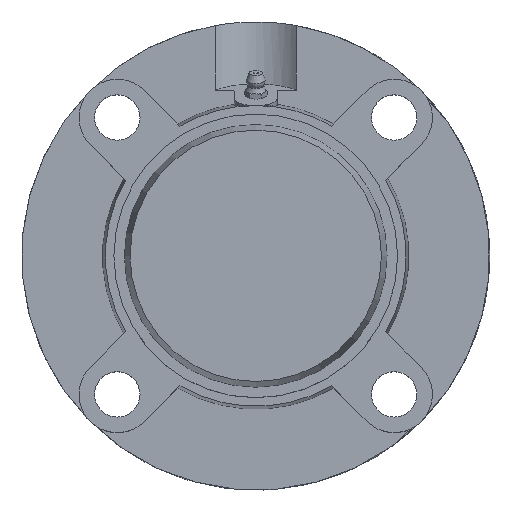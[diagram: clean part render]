
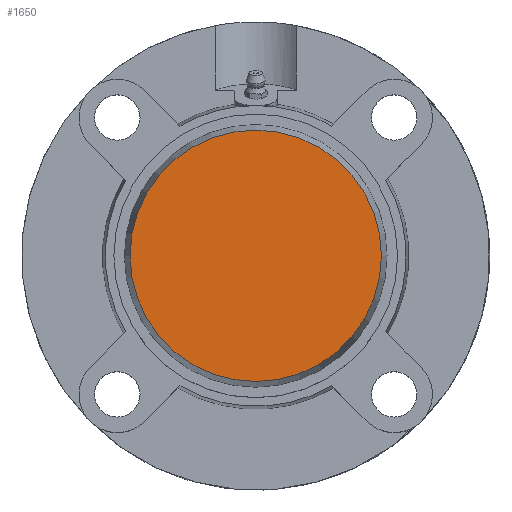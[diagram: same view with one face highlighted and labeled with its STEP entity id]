
A CAD part, top view. The second image highlights one B-rep face of the part: STEP entity #1650.
In plain terms, the highlighted planar face has unit normal (0, 0, 1).
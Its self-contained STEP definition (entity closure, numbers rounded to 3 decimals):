
#1634=CARTESIAN_POINT('',(0.0,22.151,32.));
#1635=DIRECTION('',(0.0,0.0,1.0));
#1636=DIRECTION('',(1.0,0.0,0.0));
#1637=AXIS2_PLACEMENT_3D('',#1634,#1635,#1636);
#1638=PLANE('',#1637);
#1639=CARTESIAN_POINT('',(0.0,44.302,32.));
#1640=VERTEX_POINT('',#1639);
#1641=CARTESIAN_POINT('',(0.0,0.,32.0));
#1642=DIRECTION('',(0.0,0.0,-1.0));
#1643=DIRECTION('',(0.0,1.0,0.0));
#1644=AXIS2_PLACEMENT_3D('',#1641,#1642,#1643);
#1645=CIRCLE('',#1644,44.302);
#1646=EDGE_CURVE('',#1640,#1640,#1645,.T.);
#1647=ORIENTED_EDGE('',*,*,#1646,.F.);
#1648=EDGE_LOOP('',(#1647));
#1649=FACE_OUTER_BOUND('',#1648,.T.);
#1650=ADVANCED_FACE('',(#1649),#1638,.T.);
